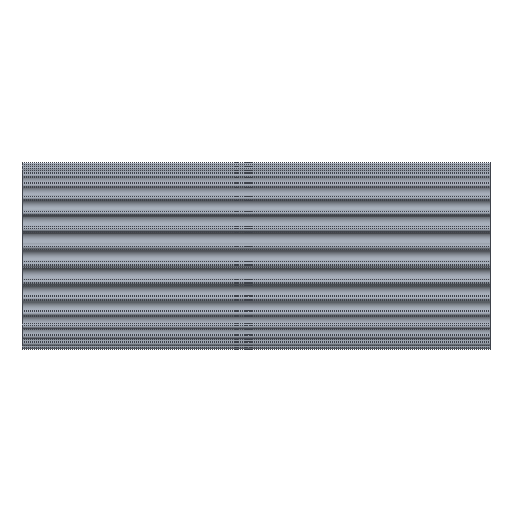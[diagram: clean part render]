
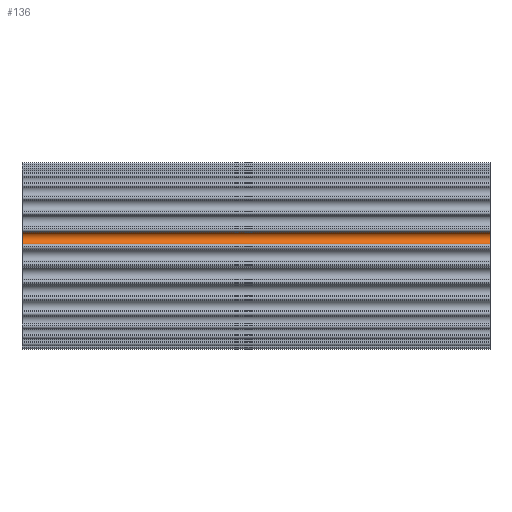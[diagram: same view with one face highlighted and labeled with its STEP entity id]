
A CAD part, top view. The second image highlights one B-rep face of the part: STEP entity #136.
In plain terms, the highlighted cylindrical face has radius 2.629 mm (diameter 5.258 mm), a partial arc.
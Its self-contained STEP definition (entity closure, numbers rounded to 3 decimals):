
#136 = ADVANCED_FACE( '', ( #392 ), #393, .F. );
#392 = FACE_OUTER_BOUND( '', #780, .T. );
#393 = CYLINDRICAL_SURFACE( '', #781, 2.629 );
#780 = EDGE_LOOP( '', ( #1849, #1850, #1851, #1852 ) );
#781 = AXIS2_PLACEMENT_3D( '', #1853, #1854, #1855 );
#1849 = ORIENTED_EDGE( '', *, *, #3023, .T. );
#1850 = ORIENTED_EDGE( '', *, *, #3229, .F. );
#1851 = ORIENTED_EDGE( '', *, *, #2938, .F. );
#1852 = ORIENTED_EDGE( '', *, *, #3228, .T. );
#1853 = CARTESIAN_POINT( '', ( 0., 7.63, 38.359 ) );
#1854 = DIRECTION( '', ( -1., 0., 0. ) );
#1855 = DIRECTION( '', ( 0., 0.981, -0.195 ) );
#2938 = EDGE_CURVE( '', #3668, #3670, #3671, .T. );
#3023 = EDGE_CURVE( '', #3834, #3832, #3835, .T. );
#3228 = EDGE_CURVE( '', #3668, #3834, #4188, .T. );
#3229 = EDGE_CURVE( '', #3670, #3832, #4189, .T. );
#3668 = VERTEX_POINT( '', #4683 );
#3670 = VERTEX_POINT( '', #4686 );
#3671 = CIRCLE( '', #4687, 2.629 );
#3832 = VERTEX_POINT( '', #4879 );
#3834 = VERTEX_POINT( '', #4882 );
#3835 = CIRCLE( '', #4883, 2.629 );
#4188 = LINE( '', #5340, #5341 );
#4189 = LINE( '', #5342, #5343 );
#4683 = CARTESIAN_POINT( '', ( 0., 5.003, 38.262 ) );
#4686 = CARTESIAN_POINT( '', ( 0., 10.02, 37.264 ) );
#4687 = AXIS2_PLACEMENT_3D( '', #5958, #5959, #5960 );
#4879 = CARTESIAN_POINT( '', ( 200., 10.02, 37.264 ) );
#4882 = CARTESIAN_POINT( '', ( 200., 5.003, 38.262 ) );
#4883 = AXIS2_PLACEMENT_3D( '', #6149, #6150, #6151 );
#5340 = CARTESIAN_POINT( '', ( 0., 5.003, 38.262 ) );
#5341 = VECTOR( '', #6556, 1000. );
#5342 = CARTESIAN_POINT( '', ( 0., 10.02, 37.264 ) );
#5343 = VECTOR( '', #6557, 1000. );
#5958 = CARTESIAN_POINT( '', ( 0., 7.63, 38.359 ) );
#5959 = DIRECTION( '', ( 1., 0., 0. ) );
#5960 = DIRECTION( '', ( 0., 0.981, -0.195 ) );
#6149 = CARTESIAN_POINT( '', ( 200., 7.63, 38.359 ) );
#6150 = DIRECTION( '', ( 1., 0., 0. ) );
#6151 = DIRECTION( '', ( 0., 0.981, -0.195 ) );
#6556 = DIRECTION( '', ( 1., 0., 0. ) );
#6557 = DIRECTION( '', ( 1., 0., 0. ) );
